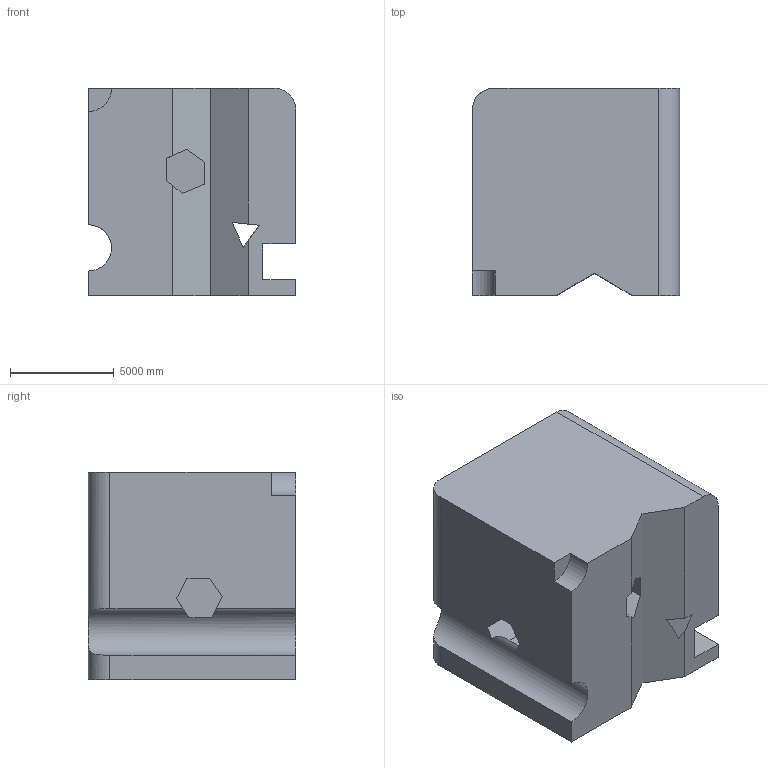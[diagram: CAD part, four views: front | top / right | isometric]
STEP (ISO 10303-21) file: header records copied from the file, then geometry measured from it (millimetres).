
FILE_DESCRIPTION (( 'STEP AP203' ), '1' );
FILE_NAME ('1821.STEP', '2022-08-19T13:13:16', ( 'user' ), ( '' ), 'SwSTEP 2.0', 'SolidWorks 2021', '' );
FILE_SCHEMA (( 'CONFIG_CONTROL_DESIGN' ));
Length unit declared in the file: centimetre
Products named in the file (1): 1821
Bounding box: 10000 x 10000 x 10000 mm (x, y, z)
Volume: 900968933674.9 mm3; surface area: 704997098.2 mm2
Topology: 1 solids, 1 shells, 37 faces, 108 edges, 72 vertices
Faces by surface type: plane 32, cylinder 5
Entity records: 1462 total; most frequent: CARTESIAN_POINT 399, ORIENTED_EDGE 216, DIRECTION 188, EDGE_CURVE 108, VECTOR 96, LINE 96, VERTEX_POINT 72, AXIS2_PLACEMENT_3D 46
